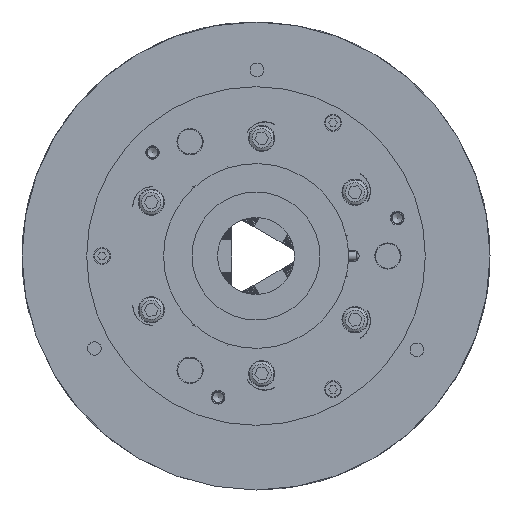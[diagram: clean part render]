
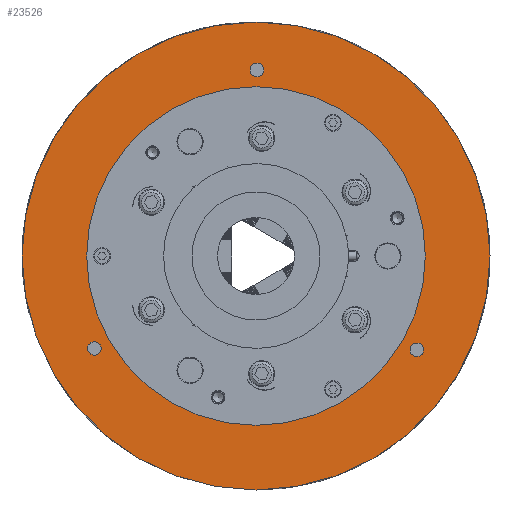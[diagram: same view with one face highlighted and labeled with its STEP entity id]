
A CAD part, left-side view. The second image highlights one B-rep face of the part: STEP entity #23526.
In plain terms, the highlighted planar face has unit normal (-1, 0, 0).
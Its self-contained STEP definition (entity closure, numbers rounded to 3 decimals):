
#531 = EDGE_CURVE ( 'NONE', #30205, #30205, #49815, .T. ) ;
#1825 = EDGE_LOOP ( 'NONE', ( #66799 ) ) ;
#2363 = CIRCLE ( 'NONE', #49498, 4.4 ) ;
#2961 = EDGE_CURVE ( 'NONE', #42802, #42802, #34853, .T. ) ;
#8450 = CARTESIAN_POINT ( 'NONE',  ( -138., -0.538, 120.933 ) ) ;
#9704 = CARTESIAN_POINT ( 'NONE',  ( -138., 0., 0. ) ) ;
#14667 = DIRECTION ( 'NONE',  ( 0., 0., 1. ) ) ;
#18926 = FACE_BOUND ( 'NONE', #34832, .T. ) ;
#20907 = CARTESIAN_POINT ( 'NONE',  ( -138., 105., -60. ) ) ;
#21862 = DIRECTION ( 'NONE',  ( 1., 0., 0. ) ) ;
#23526 = ADVANCED_FACE ( 'NONE', ( #78901, #42110, #18926, #75033, #74093 ), #31216, .T. ) ;
#24473 = DIRECTION ( 'NONE',  ( 1., 0., 0. ) ) ;
#27006 = CARTESIAN_POINT ( 'NONE',  ( -138., -104.462, -60.933 ) ) ;
#27032 = AXIS2_PLACEMENT_3D ( 'NONE', #8450, #57694, #14667 ) ;
#28489 = CARTESIAN_POINT ( 'NONE',  ( -138., -104.462, -56.533 ) ) ;
#30205 = VERTEX_POINT ( 'NONE', #28489 ) ;
#31216 = PLANE ( 'NONE',  #59929 ) ;
#32151 = DIRECTION ( 'NONE',  ( -1., 0., 0. ) ) ;
#33289 = DIRECTION ( 'NONE',  ( 0., 0., 1. ) ) ;
#33736 = DIRECTION ( 'NONE',  ( 0., 0., -1. ) ) ;
#34832 = EDGE_LOOP ( 'NONE', ( #74379 ) ) ;
#34853 = CIRCLE ( 'NONE', #78481, 110. ) ;
#37415 = DIRECTION ( 'NONE',  ( -1., 0., 0. ) ) ;
#39512 = DIRECTION ( 'NONE',  ( -1., 0., 0. ) ) ;
#41714 = VERTEX_POINT ( 'NONE', #55605 ) ;
#42110 = FACE_BOUND ( 'NONE', #54691, .T. ) ;
#42802 = VERTEX_POINT ( 'NONE', #47732 ) ;
#43937 = CARTESIAN_POINT ( 'NONE',  ( -138., 76., -131.636 ) ) ;
#44932 = ORIENTED_EDGE ( 'NONE', *, *, #531, .F. ) ;
#44964 = EDGE_CURVE ( 'NONE', #41714, #41714, #52320, .T. ) ;
#47732 = CARTESIAN_POINT ( 'NONE',  ( -138., 0., -110. ) ) ;
#47818 = EDGE_CURVE ( 'NONE', #75592, #75592, #2363, .T. ) ;
#49498 = AXIS2_PLACEMENT_3D ( 'NONE', #20907, #39512, #33289 ) ;
#49815 = CIRCLE ( 'NONE', #68092, 4.4 ) ;
#52320 = CIRCLE ( 'NONE', #78803, 152. ) ;
#54691 = EDGE_LOOP ( 'NONE', ( #44932 ) ) ;
#55605 = CARTESIAN_POINT ( 'NONE',  ( -138., 0., -152. ) ) ;
#57694 = DIRECTION ( 'NONE',  ( -1., 0., 0. ) ) ;
#59718 = ORIENTED_EDGE ( 'NONE', *, *, #44964, .F. ) ;
#59929 = AXIS2_PLACEMENT_3D ( 'NONE', #43937, #37415, #62653 ) ;
#61562 = CARTESIAN_POINT ( 'NONE',  ( -138., 0., 0. ) ) ;
#61828 = DIRECTION ( 'NONE',  ( 0., 0., -1. ) ) ;
#62124 = CIRCLE ( 'NONE', #27032, 4.4 ) ;
#62653 = DIRECTION ( 'NONE',  ( 0., 0., 1. ) ) ;
#63581 = DIRECTION ( 'NONE',  ( 0., 0., 1. ) ) ;
#63943 = EDGE_LOOP ( 'NONE', ( #59718 ) ) ;
#66799 = ORIENTED_EDGE ( 'NONE', *, *, #2961, .T. ) ;
#67846 = VERTEX_POINT ( 'NONE', #75821 ) ;
#68092 = AXIS2_PLACEMENT_3D ( 'NONE', #27006, #32151, #63581 ) ;
#68356 = ORIENTED_EDGE ( 'NONE', *, *, #79757, .F. ) ;
#69457 = EDGE_LOOP ( 'NONE', ( #68356 ) ) ;
#73694 = CARTESIAN_POINT ( 'NONE',  ( -138., 105., -55.6 ) ) ;
#74093 = FACE_OUTER_BOUND ( 'NONE', #63943, .T. ) ;
#74379 = ORIENTED_EDGE ( 'NONE', *, *, #47818, .F. ) ;
#75033 = FACE_BOUND ( 'NONE', #1825, .T. ) ;
#75592 = VERTEX_POINT ( 'NONE', #73694 ) ;
#75821 = CARTESIAN_POINT ( 'NONE',  ( -138., -0.538, 125.333 ) ) ;
#78481 = AXIS2_PLACEMENT_3D ( 'NONE', #9704, #21862, #33736 ) ;
#78803 = AXIS2_PLACEMENT_3D ( 'NONE', #61562, #24473, #61828 ) ;
#78901 = FACE_BOUND ( 'NONE', #69457, .T. ) ;
#79757 = EDGE_CURVE ( 'NONE', #67846, #67846, #62124, .T. ) ;
